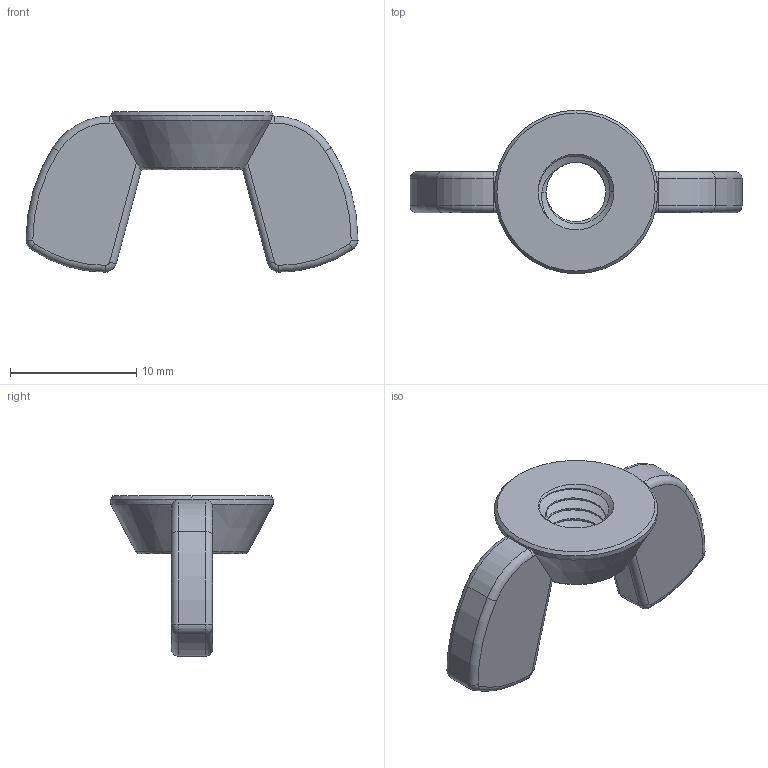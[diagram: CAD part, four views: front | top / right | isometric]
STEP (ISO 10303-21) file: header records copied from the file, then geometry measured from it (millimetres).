
FILE_DESCRIPTION (( 'STEP AP203' ), '1' );
FILE_NAME ('WING NUT M6 x 1mm Thread.STEP', '2017-05-02T01:00:58', ( '' ), ( '' ), 'SwSTEP 2.0', 'SolidWorks 2014', '' );
FILE_SCHEMA (( 'CONFIG_CONTROL_DESIGN' ));
Length unit declared in the file: millimetre
Products named in the file (1): WING NUT M6 x 1mm Thread
Bounding box: 26.3 x 12.96 x 12.7 mm (x, y, z)
Volume: 859.7 mm3; surface area: 894.1 mm2
Topology: 1 solids, 1 shells, 82 faces, 211 edges, 131 vertices
Faces by surface type: cylinder 36, torus 22, cone 12, plane 10, bspline 2
Entity records: 3165 total; most frequent: CARTESIAN_POINT 1205, ORIENTED_EDGE 422, DIRECTION 390, EDGE_CURVE 211, AXIS2_PLACEMENT_3D 168, VERTEX_POINT 131, CIRCLE 87, EDGE_LOOP 84
